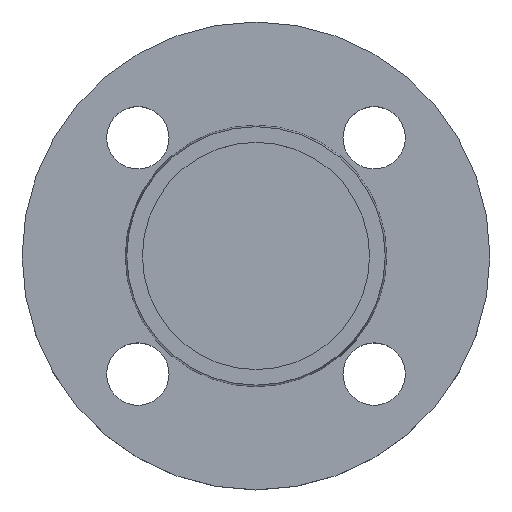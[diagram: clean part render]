
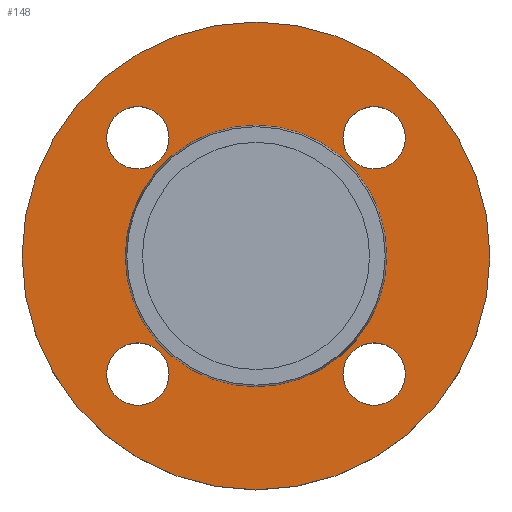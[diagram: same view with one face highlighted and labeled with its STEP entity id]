
A CAD part, top view. The second image highlights one B-rep face of the part: STEP entity #148.
In plain terms, the highlighted planar face has unit normal (0, 0, 1).
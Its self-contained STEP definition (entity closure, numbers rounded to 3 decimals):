
#1 = CIRCLE ( 'NONE', #322, 29.353 ) ;
#37 = EDGE_CURVE ( 'NONE', #389, #376, #426, .T. ) ;
#40 = EDGE_CURVE ( 'NONE', #297, #292, #96, .T. ) ;
#46 = EDGE_CURVE ( 'NONE', #375, #384, #1, .T. ) ;
#47 = EDGE_CURVE ( 'NONE', #404, #369, #336, .T. ) ;
#49 = CARTESIAN_POINT ( 'NONE',  ( -26.517, 26.517, -2. ) ) ;
#50 = AXIS2_PLACEMENT_3D ( 'NONE', #437, #438, #440 ) ;
#51 = DIRECTION ( 'NONE',  ( 0., 0., -1. ) ) ;
#52 = DIRECTION ( 'NONE',  ( 1., 0., 0. ) ) ;
#63 = CARTESIAN_POINT ( 'NONE',  ( -26.517, 26.517, -2. ) ) ;
#64 = DIRECTION ( 'NONE',  ( 0., 0., -1. ) ) ;
#65 = DIRECTION ( 'NONE',  ( 1., 0., 0. ) ) ;
#71 = CARTESIAN_POINT ( 'NONE',  ( 52.5, 0., -2. ) ) ;
#72 = CARTESIAN_POINT ( 'NONE',  ( -52.5, 0., -2. ) ) ;
#95 = EDGE_CURVE ( 'NONE', #292, #297, #97, .T. ) ;
#96 = CIRCLE ( 'NONE', #289, 52.5 ) ;
#97 = CIRCLE ( 'NONE', #147, 52.5 ) ;
#100 = CIRCLE ( 'NONE', #588, 7. ) ;
#117 = DIRECTION ( 'NONE',  ( 0., 0., -1. ) ) ;
#118 = DIRECTION ( 'NONE',  ( 1., 0., 0. ) ) ;
#124 = CARTESIAN_POINT ( 'NONE',  ( -33.517, -26.517, -2. ) ) ;
#127 = CARTESIAN_POINT ( 'NONE',  ( 29.353, 0., -2. ) ) ;
#128 = CARTESIAN_POINT ( 'NONE',  ( 33.517, -26.517, -2. ) ) ;
#130 = CARTESIAN_POINT ( 'NONE',  ( -26.517, -26.517, -2. ) ) ;
#141 = CARTESIAN_POINT ( 'NONE',  ( 26.517, -26.517, -2. ) ) ;
#142 = DIRECTION ( 'NONE',  ( 0., 0., -1. ) ) ;
#144 = DIRECTION ( 'NONE',  ( 1., 0., 0. ) ) ;
#147 = AXIS2_PLACEMENT_3D ( 'NONE', #531, #489, #491 ) ;
#148 = ADVANCED_FACE ( 'NONE', ( #506, #507, #510, #508, #509, #511 ), #512, .T. ) ;
#164 = CIRCLE ( 'NONE', #587, 7. ) ;
#165 = EDGE_LOOP ( 'NONE', ( #271, #272 ) ) ;
#167 = VERTEX_POINT ( 'NONE', #515 ) ;
#179 = AXIS2_PLACEMENT_3D ( 'NONE', #562, #563, #565 ) ;
#185 = AXIS2_PLACEMENT_3D ( 'NONE', #529, #532, #533 ) ;
#213 = CIRCLE ( 'NONE', #179, 7. ) ;
#230 = EDGE_CURVE ( 'NONE', #399, #403, #353, .T. ) ;
#232 = AXIS2_PLACEMENT_3D ( 'NONE', #427, #428, #429 ) ;
#245 = EDGE_LOOP ( 'NONE', ( #278, #279 ) ) ;
#254 = EDGE_CURVE ( 'NONE', #403, #399, #388, .T. ) ;
#262 = EDGE_LOOP ( 'NONE', ( #283, #284 ) ) ;
#271 = ORIENTED_EDGE ( 'NONE', *, *, #380, .T. ) ;
#272 = ORIENTED_EDGE ( 'NONE', *, *, #37, .T. ) ;
#278 = ORIENTED_EDGE ( 'NONE', *, *, #47, .T. ) ;
#279 = ORIENTED_EDGE ( 'NONE', *, *, #358, .T. ) ;
#280 = ORIENTED_EDGE ( 'NONE', *, *, #254, .T. ) ;
#282 = ORIENTED_EDGE ( 'NONE', *, *, #230, .T. ) ;
#283 = ORIENTED_EDGE ( 'NONE', *, *, #488, .T. ) ;
#284 = ORIENTED_EDGE ( 'NONE', *, *, #501, .T. ) ;
#285 = ORIENTED_EDGE ( 'NONE', *, *, #435, .T. ) ;
#286 = ORIENTED_EDGE ( 'NONE', *, *, #46, .T. ) ;
#288 = ORIENTED_EDGE ( 'NONE', *, *, #95, .F. ) ;
#289 = AXIS2_PLACEMENT_3D ( 'NONE', #430, #431, #432 ) ;
#290 = ORIENTED_EDGE ( 'NONE', *, *, #40, .F. ) ;
#291 = AXIS2_PLACEMENT_3D ( 'NONE', #485, #521, #487 ) ;
#292 = VERTEX_POINT ( 'NONE', #71 ) ;
#297 = VERTEX_POINT ( 'NONE', #72 ) ;
#303 = EDGE_LOOP ( 'NONE', ( #288, #290 ) ) ;
#310 = CIRCLE ( 'NONE', #592, 7. ) ;
#322 = AXIS2_PLACEMENT_3D ( 'NONE', #433, #434, #436 ) ;
#336 = CIRCLE ( 'NONE', #50, 7. ) ;
#353 = CIRCLE ( 'NONE', #355, 7. ) ;
#355 = AXIS2_PLACEMENT_3D ( 'NONE', #49, #51, #52 ) ;
#358 = EDGE_CURVE ( 'NONE', #369, #404, #310, .T. ) ;
#369 = VERTEX_POINT ( 'NONE', #124 ) ;
#372 = EDGE_LOOP ( 'NONE', ( #280, #282 ) ) ;
#375 = VERTEX_POINT ( 'NONE', #127 ) ;
#376 = VERTEX_POINT ( 'NONE', #128 ) ;
#380 = EDGE_CURVE ( 'NONE', #376, #389, #100, .T. ) ;
#384 = VERTEX_POINT ( 'NONE', #560 ) ;
#386 = AXIS2_PLACEMENT_3D ( 'NONE', #63, #64, #65 ) ;
#388 = CIRCLE ( 'NONE', #386, 7. ) ;
#389 = VERTEX_POINT ( 'NONE', #461 ) ;
#398 = EDGE_LOOP ( 'NONE', ( #285, #286 ) ) ;
#399 = VERTEX_POINT ( 'NONE', #465 ) ;
#403 = VERTEX_POINT ( 'NONE', #494 ) ;
#404 = VERTEX_POINT ( 'NONE', #497 ) ;
#408 = VERTEX_POINT ( 'NONE', #516 ) ;
#426 = CIRCLE ( 'NONE', #232, 7. ) ;
#427 = CARTESIAN_POINT ( 'NONE',  ( 26.517, -26.517, -2. ) ) ;
#428 = DIRECTION ( 'NONE',  ( 0., 0., -1. ) ) ;
#429 = DIRECTION ( 'NONE',  ( 1., 0., 0. ) ) ;
#430 = CARTESIAN_POINT ( 'NONE',  ( 0., 0., -2. ) ) ;
#431 = DIRECTION ( 'NONE',  ( 0., 0., -1. ) ) ;
#432 = DIRECTION ( 'NONE',  ( -1., 0., 0. ) ) ;
#433 = CARTESIAN_POINT ( 'NONE',  ( 0., 0., -2. ) ) ;
#434 = DIRECTION ( 'NONE',  ( 0., 0., -1. ) ) ;
#435 = EDGE_CURVE ( 'NONE', #384, #375, #505, .T. ) ;
#436 = DIRECTION ( 'NONE',  ( -1., 0., 0. ) ) ;
#437 = CARTESIAN_POINT ( 'NONE',  ( -26.517, -26.517, -2. ) ) ;
#438 = DIRECTION ( 'NONE',  ( 0., 0., -1. ) ) ;
#440 = DIRECTION ( 'NONE',  ( 1., 0., 0. ) ) ;
#461 = CARTESIAN_POINT ( 'NONE',  ( 19.517, -26.517, -2. ) ) ;
#465 = CARTESIAN_POINT ( 'NONE',  ( -33.517, 26.517, -2. ) ) ;
#485 = CARTESIAN_POINT ( 'NONE',  ( 29.353, 0., -2. ) ) ;
#487 = DIRECTION ( 'NONE',  ( 1., 0., 0. ) ) ;
#488 = EDGE_CURVE ( 'NONE', #167, #408, #164, .T. ) ;
#489 = DIRECTION ( 'NONE',  ( 0., 0., -1. ) ) ;
#491 = DIRECTION ( 'NONE',  ( -1., 0., 0. ) ) ;
#494 = CARTESIAN_POINT ( 'NONE',  ( -19.517, 26.517, -2. ) ) ;
#497 = CARTESIAN_POINT ( 'NONE',  ( -19.517, -26.517, -2. ) ) ;
#501 = EDGE_CURVE ( 'NONE', #408, #167, #213, .T. ) ;
#505 = CIRCLE ( 'NONE', #185, 29.353 ) ;
#506 = FACE_BOUND ( 'NONE', #165, .T. ) ;
#507 = FACE_BOUND ( 'NONE', #245, .T. ) ;
#508 = FACE_BOUND ( 'NONE', #262, .T. ) ;
#509 = FACE_BOUND ( 'NONE', #398, .T. ) ;
#510 = FACE_BOUND ( 'NONE', #372, .T. ) ;
#511 = FACE_OUTER_BOUND ( 'NONE', #303, .T. ) ;
#512 = PLANE ( 'NONE',  #291 ) ;
#515 = CARTESIAN_POINT ( 'NONE',  ( 33.517, 26.517, -2. ) ) ;
#516 = CARTESIAN_POINT ( 'NONE',  ( 19.517, 26.517, -2. ) ) ;
#521 = DIRECTION ( 'NONE',  ( 0., 0., 1. ) ) ;
#529 = CARTESIAN_POINT ( 'NONE',  ( 0., 0., -2. ) ) ;
#531 = CARTESIAN_POINT ( 'NONE',  ( 0., 0., -2. ) ) ;
#532 = DIRECTION ( 'NONE',  ( 0., 0., -1. ) ) ;
#533 = DIRECTION ( 'NONE',  ( -1., 0., 0. ) ) ;
#558 = CARTESIAN_POINT ( 'NONE',  ( 26.517, 26.517, -2. ) ) ;
#559 = DIRECTION ( 'NONE',  ( 0., 0., -1. ) ) ;
#560 = CARTESIAN_POINT ( 'NONE',  ( -29.353, 0., -2. ) ) ;
#562 = CARTESIAN_POINT ( 'NONE',  ( 26.517, 26.517, -2. ) ) ;
#563 = DIRECTION ( 'NONE',  ( 0., 0., -1. ) ) ;
#565 = DIRECTION ( 'NONE',  ( 1., 0., 0. ) ) ;
#568 = DIRECTION ( 'NONE',  ( 1., 0., 0. ) ) ;
#587 = AXIS2_PLACEMENT_3D ( 'NONE', #558, #559, #568 ) ;
#588 = AXIS2_PLACEMENT_3D ( 'NONE', #141, #142, #144 ) ;
#592 = AXIS2_PLACEMENT_3D ( 'NONE', #130, #117, #118 ) ;
